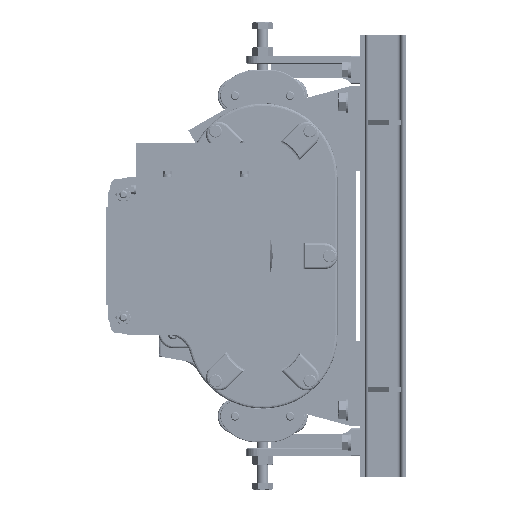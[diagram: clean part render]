
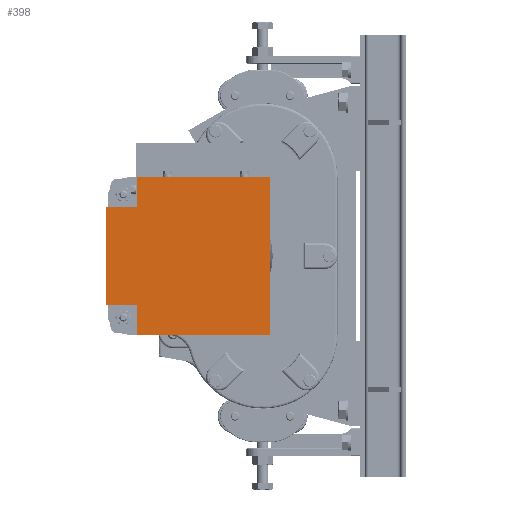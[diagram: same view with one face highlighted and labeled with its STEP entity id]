
A CAD part, left-side view. The second image highlights one B-rep face of the part: STEP entity #398.
In plain terms, the highlighted planar face has unit normal (-1, 0, 0).
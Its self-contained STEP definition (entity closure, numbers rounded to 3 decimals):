
#398=ADVANCED_FACE('',(#5933),#5932,.F.);
#5932=PLANE('',#58158);
#5933=FACE_OUTER_BOUND('',#58159,.T.);
#58155=CARTESIAN_POINT('',(-1517.16,-599.967,-167.437));
#58156=DIRECTION('',(1.,0.,0.));
#58157=DIRECTION('',(0.,0.,-1.));
#58158=AXIS2_PLACEMENT_3D('',#58155,#58156,#58157);
#58159=EDGE_LOOP('',(#105179,#105180,#105181,#105182,#105183,#105184,#105185,#105186));
#105179=ORIENTED_EDGE('',*,*,#130810,.F.);
#105180=ORIENTED_EDGE('',*,*,#130811,.F.);
#105181=ORIENTED_EDGE('',*,*,#130812,.F.);
#105182=ORIENTED_EDGE('',*,*,#130813,.F.);
#105183=ORIENTED_EDGE('',*,*,#130814,.F.);
#105184=ORIENTED_EDGE('',*,*,#130815,.F.);
#105185=ORIENTED_EDGE('',*,*,#130816,.F.);
#105186=ORIENTED_EDGE('',*,*,#130817,.F.);
#130810=EDGE_CURVE('',#145320,#145321,#145322,.T.);
#130811=EDGE_CURVE('',#145328,#145320,#145329,.T.);
#130812=EDGE_CURVE('',#145335,#145328,#145336,.T.);
#130813=EDGE_CURVE('',#145342,#145335,#145343,.T.);
#130814=EDGE_CURVE('',#145349,#145342,#145350,.T.);
#130815=EDGE_CURVE('',#145356,#145349,#145357,.T.);
#130816=EDGE_CURVE('',#145363,#145356,#145364,.T.);
#130817=EDGE_CURVE('',#145321,#145363,#145370,.T.);
#145320=VERTEX_POINT('',#230829);
#145321=VERTEX_POINT('',#230830);
#145322=LINE('',#230831,#230832);
#145328=VERTEX_POINT('',#230834);
#145329=LINE('',#230835,#230836);
#145335=VERTEX_POINT('',#230838);
#145336=LINE('',#230839,#230840);
#145342=VERTEX_POINT('',#230842);
#145343=LINE('',#230843,#230844);
#145349=VERTEX_POINT('',#230846);
#145350=LINE('',#230847,#230848);
#145356=VERTEX_POINT('',#230850);
#145357=LINE('',#230851,#230852);
#145363=VERTEX_POINT('',#230854);
#145364=LINE('',#230855,#230856);
#145370=LINE('',#230858,#230859);
#230829=CARTESIAN_POINT('',(-1517.16,-425.467,-177.437));
#230830=CARTESIAN_POINT('',(-1517.16,-589.967,-177.437));
#230831=CARTESIAN_POINT('',(-1517.16,-425.467,-177.437));
#230832=VECTOR('',#230833,164.5);
#230833=DIRECTION('',(0.,-1.,0.));
#230834=CARTESIAN_POINT('',(-1517.16,-425.467,-214.337));
#230835=CARTESIAN_POINT('',(-1517.16,-425.467,-214.337));
#230836=VECTOR('',#230837,36.9);
#230837=DIRECTION('',(0.,0.,1.));
#230838=CARTESIAN_POINT('',(-1517.16,-387.467,-214.337));
#230839=CARTESIAN_POINT('',(-1517.16,-387.467,-214.337));
#230840=VECTOR('',#230841,38.);
#230841=DIRECTION('',(0.,-1.,0.));
#230842=CARTESIAN_POINT('',(-1517.16,-387.467,-334.537));
#230843=CARTESIAN_POINT('',(-1517.16,-387.467,-334.537));
#230844=VECTOR('',#230845,120.2);
#230845=DIRECTION('',(0.,0.,1.));
#230846=CARTESIAN_POINT('',(-1517.16,-425.467,-334.537));
#230847=CARTESIAN_POINT('',(-1517.16,-425.467,-334.537));
#230848=VECTOR('',#230849,38.);
#230849=DIRECTION('',(0.,1.,0.));
#230850=CARTESIAN_POINT('',(-1517.16,-425.467,-371.437));
#230851=CARTESIAN_POINT('',(-1517.16,-425.467,-371.437));
#230852=VECTOR('',#230853,36.9);
#230853=DIRECTION('',(0.,0.,1.));
#230854=CARTESIAN_POINT('',(-1517.16,-589.967,-371.437));
#230855=CARTESIAN_POINT('',(-1517.16,-589.967,-371.437));
#230856=VECTOR('',#230857,164.5);
#230857=DIRECTION('',(0.,1.,0.));
#230858=CARTESIAN_POINT('',(-1517.16,-589.967,-177.437));
#230859=VECTOR('',#230860,194.);
#230860=DIRECTION('',(0.,0.,-1.));
